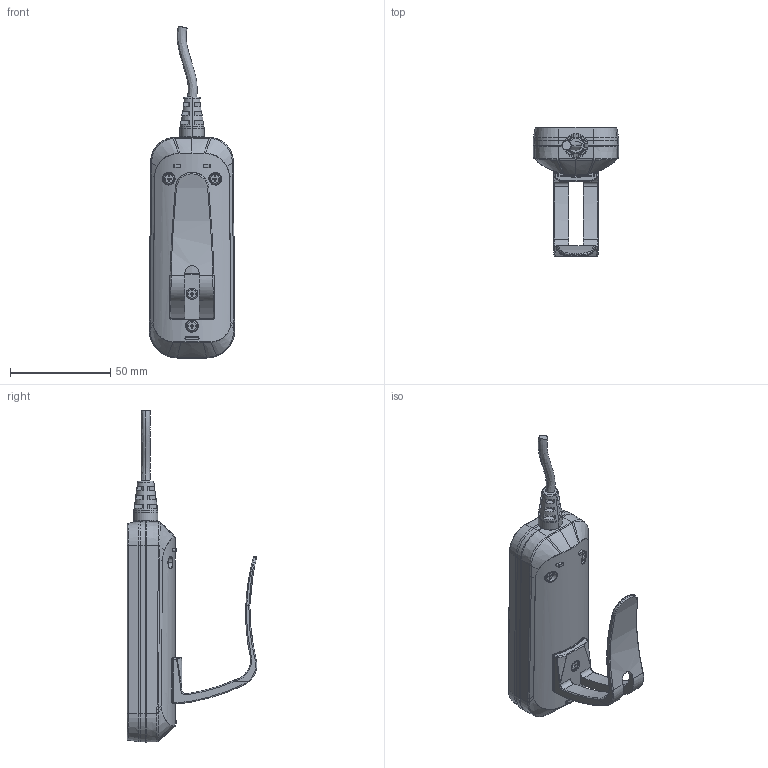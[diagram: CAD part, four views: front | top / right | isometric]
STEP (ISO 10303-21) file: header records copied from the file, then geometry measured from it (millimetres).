
FILE_DESCRIPTION((''),'2;1');
FILE_NAME('H2B_ASM_ASM_ASM','2020-04-22T',('USER'),(''),'PRO/ENGINEER BY PARAMETRIC TECHNOLOGY CORPORATION, 2016240','PRO/ENGINEER BY PARAMETRIC TECHNOLOGY CORPORATION, 2016240','');
FILE_SCHEMA(('CONFIG_CONTROL_DESIGN'));
Length unit declared in the file: millimetre
Products named in the file (12): MSBR-11; MSBR-10; MSBR-9; MSBR-8; MSBR-7; MSBR-6; MSBR-5; MSBR-4; MSBR-3; MSBR-2; MSBR-1; H2B_ASM_ASM_ASM
Assembly tree (11 placements, depth 2):
  H2B_ASM_ASM_ASM
    MSBR-11
    MSBR-10
    MSBR-9
    MSBR-8
    MSBR-7
    MSBR-6
    MSBR-5
    MSBR-4
    MSBR-3
    MSBR-2
    MSBR-1
Bounding box: 42.74 x 64.61 x 165.56 mm (x, y, z)
Volume: 35665.8 mm3; surface area: 44079.6 mm2
Topology: 11 solids, 11 shells, 926 faces, 2297 edges, 1451 vertices
Faces by surface type: plane 374, cylinder 267, bspline 150, torus 90, cone 37, sphere 8
Entity records: 36080 total; most frequent: CARTESIAN_POINT 14819, ORIENTED_EDGE 4590, DIRECTION 4050, EDGE_CURVE 2295, AXIS2_PLACEMENT_3D 1500, VERTEX_POINT 1451, VECTOR 1050, LINE 1050
